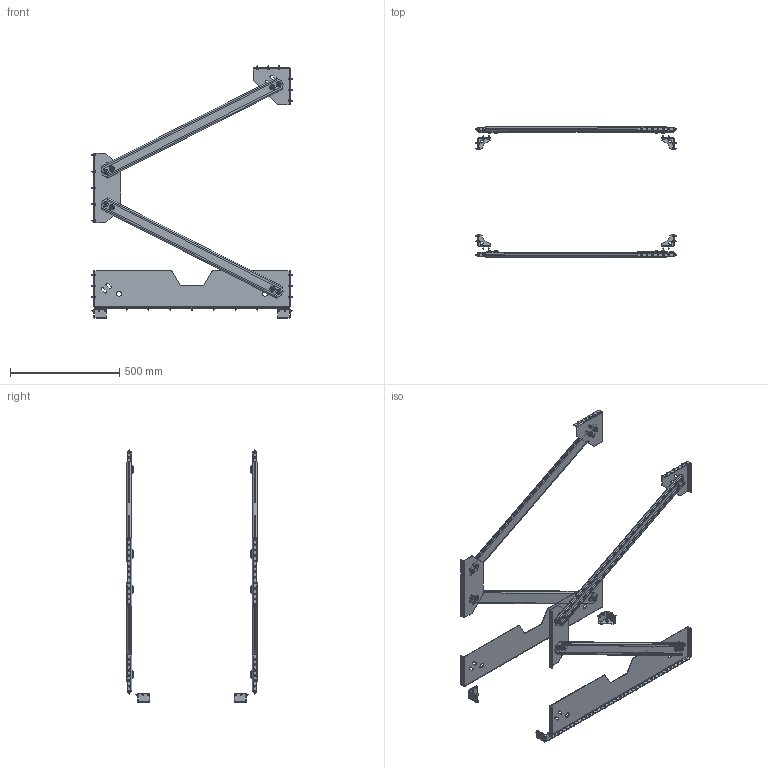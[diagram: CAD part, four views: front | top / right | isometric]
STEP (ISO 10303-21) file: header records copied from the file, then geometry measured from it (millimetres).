
FILE_DESCRIPTION(('STEP AP203'), '1');
FILE_NAME('3950.120.100 Ñåéñìîêîìïëåêò 1200õ1000', '', ('UNSPECIFIED'), ('UNSPECIFIED'), 'C3D Converter', 'C3D Toolkit', '');
FILE_SCHEMA(('CONFIG_CONTROL_DESIGN'));
Length unit declared in the file: millimetre
Products named in the file (21): 3950.120.100; 3950.01; 3950.02; 3950.03.100; 3950.04; 3950.05.120.100
Assembly tree (162 placements, depth 2):
  3950.120.100
    3950.01  x2
    3950.02
    3950.03.100
    3950.04
    3950.05.120.100  x2
    (unnamed)  x16
    (unnamed)  x8
    (unnamed)  x8
    (unnamed)  x8
    (unnamed)  x42
    (unnamed)  x26
    (unnamed)  x8
    (unnamed)  x8
    (unnamed)  x8
    (unnamed)  x16
    3950.05.120.100  x2
    3950.04
    3950.03.100
    3950.02
    3950.01  x2
Bounding box: 922 x 598 x 1159.5 mm (x, y, z)
Volume: 2642076.9 mm3; surface area: 1856367.3 mm2
Topology: 162 solids, 162 shells, 3234 faces, 7558 edges, 4832 vertices
Faces by surface type: plane 1414, cone 640, cylinder 620, bspline 408, torus 152
Full cylindrical faces by diameter (mm): 4.8 x68, 6 x16, 6.5 x144, 6.647 x16, 8 x16, 9 x40, 14 x4, 22 x4, 24 x32
Entity records: 34158 total; most frequent: CARTESIAN_POINT 10803, DIRECTION 4206, ORIENTED_EDGE 3400, EDGE_CURVE 1700, AXIS2_PLACEMENT_3D 1681, EDGE_LOOP 1340, VERTEX_POINT 1184, FACE_BOUND 964
